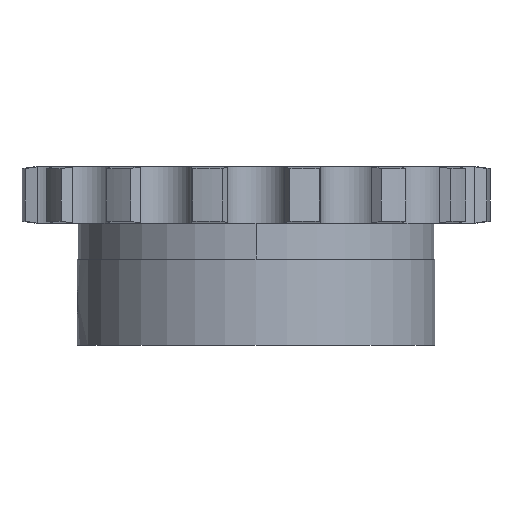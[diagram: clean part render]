
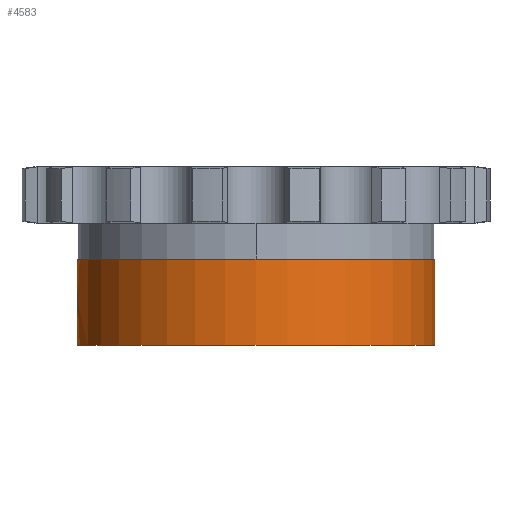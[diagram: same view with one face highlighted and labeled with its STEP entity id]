
A CAD part, front view. The second image highlights one B-rep face of the part: STEP entity #4583.
In plain terms, the highlighted cylindrical face has radius 35 mm (diameter 70 mm), a partial arc.
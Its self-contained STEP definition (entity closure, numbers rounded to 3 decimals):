
#1095=CARTESIAN_POINT('',(-35.,0.,
-18.));
#1117=DIRECTION('',(0.,0.,1.));
#1118=VECTOR('',#1117,16.9);
#1119=CARTESIAN_POINT('',(35.,0.,-29.45));
#1120=LINE('',#1119,#1118);
#1244=CARTESIAN_POINT('',(-35.,0.,
-18.));
#1245=CARTESIAN_POINT('',(-35.,-0.16,
-18.));
#1246=CARTESIAN_POINT('',(-34.998,-0.477,
-18.024));
#1247=CARTESIAN_POINT('',(-34.988,-0.953,
-18.136));
#1248=CARTESIAN_POINT('',(-34.973,-1.405,
-18.322));
#1249=CARTESIAN_POINT('',(-34.953,-1.818,
-18.574));
#1250=CARTESIAN_POINT('',(-34.932,-2.182,
-18.883));
#1251=CARTESIAN_POINT('',(-34.911,-2.493,
-19.245));
#1252=CARTESIAN_POINT('',(-34.893,-2.744,
-19.653));
#1253=CARTESIAN_POINT('',(-34.878,-2.925,
-20.093));
#1254=CARTESIAN_POINT('',(-34.868,-3.032,
-20.549));
#1255=CARTESIAN_POINT('',(-34.866,-3.055,
-20.85));
#1256=CARTESIAN_POINT('',(-34.866,-3.055,
-21.));
#1261=DIRECTION('',(0.,0.,1.));
#1262=VECTOR('',#1261,5.45);
#1263=CARTESIAN_POINT('',(-35.,0.,
-18.));
#1264=LINE('',#1263,#1262);
#1268=CARTESIAN_POINT('',(0.,0.,-12.55));
#1269=DIRECTION('',(0.,0.,1.));
#1270=DIRECTION('',(-1.,0.,0.));
#1271=AXIS2_PLACEMENT_3D('',#1268,#1269,#1270);
#1276=DIRECTION('',(0.,0.,1.));
#1277=VECTOR('',#1276,5.45);
#1278=CARTESIAN_POINT('',(-35.,0.,-29.45));
#1279=LINE('',#1278,#1277);
#1283=CARTESIAN_POINT('',(-34.866,-3.055,
-21.));
#1284=CARTESIAN_POINT('',(-34.866,-3.055,
-21.15));
#1285=CARTESIAN_POINT('',(-34.868,-3.032,
-21.45));
#1286=CARTESIAN_POINT('',(-34.878,-2.925,
-21.906));
#1287=CARTESIAN_POINT('',(-34.892,-2.744,
-22.345));
#1288=CARTESIAN_POINT('',(-34.911,-2.494,
-22.754));
#1289=CARTESIAN_POINT('',(-34.932,-2.182,
-23.117));
#1290=CARTESIAN_POINT('',(-34.953,-1.819,
-23.426));
#1291=CARTESIAN_POINT('',(-34.973,-1.406,
-23.677));
#1292=CARTESIAN_POINT('',(-34.988,-0.954,
-23.863));
#1293=CARTESIAN_POINT('',(-34.998,-0.477,
-23.976));
#1294=CARTESIAN_POINT('',(-35.,-0.16,
-24.));
#1295=CARTESIAN_POINT('',(-35.,0.,
-24.));
#1308=CARTESIAN_POINT('',(0.,0.,-29.45));
#1309=DIRECTION('',(0.,0.,-1.));
#1310=DIRECTION('',(1.,0.,0.));
#1311=AXIS2_PLACEMENT_3D('',#1308,#1309,#1310);
#3003=CARTESIAN_POINT('',(-35.,0.,-29.45));
#3004=CARTESIAN_POINT('',(35.,0.,-29.45));
#3005=VERTEX_POINT('',#3003);
#3006=VERTEX_POINT('',#3004);
#3168=VERTEX_POINT('',#1095);
#3171=VERTEX_POINT('',#1256);
#3173=VERTEX_POINT('',#1295);
#3183=CARTESIAN_POINT('',(35.,0.,-12.55));
#3184=CARTESIAN_POINT('',(-35.,0.,-12.55));
#3185=VERTEX_POINT('',#3183);
#3186=VERTEX_POINT('',#3184);
#4567=CARTESIAN_POINT('',(0.,0.,5.55));
#4568=DIRECTION('',(0.,0.,1.));
#4569=DIRECTION('',(1.,0.,0.));
#4570=AXIS2_PLACEMENT_3D('',#4567,#4568,#4569);
#4571=CYLINDRICAL_SURFACE('',#4570,35.);
#4572=ORIENTED_EDGE('',*,*,#4557,.F.);
#4573=ORIENTED_EDGE('',*,*,#4188,.T.);
#4574=ORIENTED_EDGE('',*,*,#4163,.T.);
#4575=ORIENTED_EDGE('',*,*,#4185,.F.);
#4577=ORIENTED_EDGE('',*,*,#4576,.T.);
#4578=ORIENTED_EDGE('',*,*,#4181,.T.);
#4580=ORIENTED_EDGE('',*,*,#4579,.F.);
#4581=EDGE_LOOP('',(#4572,#4573,#4574,#4575,#4577,#4578,#4580));
#4582=FACE_OUTER_BOUND('',#4581,.F.);
#4583=ADVANCED_FACE('',(#4582),#4571,.T.);
#1257=B_SPLINE_CURVE_WITH_KNOTS('',3,(#1244,#1245,#1246,#1247,#1248,#1249,#1250,
#1251,#1252,#1253,#1254,#1255,#1256),.UNSPECIFIED.,.F.,.F.,(4,1,1,1,1,1,1,1,1,1,
4),(0.,0.1,0.2,0.3,0.4,0.5,0.6,0.7,0.8,0.9,1.),
.UNSPECIFIED.);
#1272=CIRCLE('',#1271,35.);
#1296=B_SPLINE_CURVE_WITH_KNOTS('',3,(#1283,#1284,#1285,#1286,#1287,#1288,#1289,
#1290,#1291,#1292,#1293,#1294,#1295),.UNSPECIFIED.,.F.,.F.,(4,1,1,1,1,1,1,1,1,1,
4),(0.,0.1,0.2,0.3,0.4,0.5,0.6,0.7,0.8,0.9,1.),
.UNSPECIFIED.);
#1312=CIRCLE('',#1311,35.);
#4163=EDGE_CURVE('',#3186,#3185,#1272,.T.);
#4181=EDGE_CURVE('',#3005,#3173,#1279,.T.);
#4185=EDGE_CURVE('',#3006,#3185,#1120,.T.);
#4188=EDGE_CURVE('',#3168,#3186,#1264,.T.);
#4557=EDGE_CURVE('',#3168,#3171,#1257,.T.);
#4576=EDGE_CURVE('',#3006,#3005,#1312,.T.);
#4579=EDGE_CURVE('',#3171,#3173,#1296,.T.);
